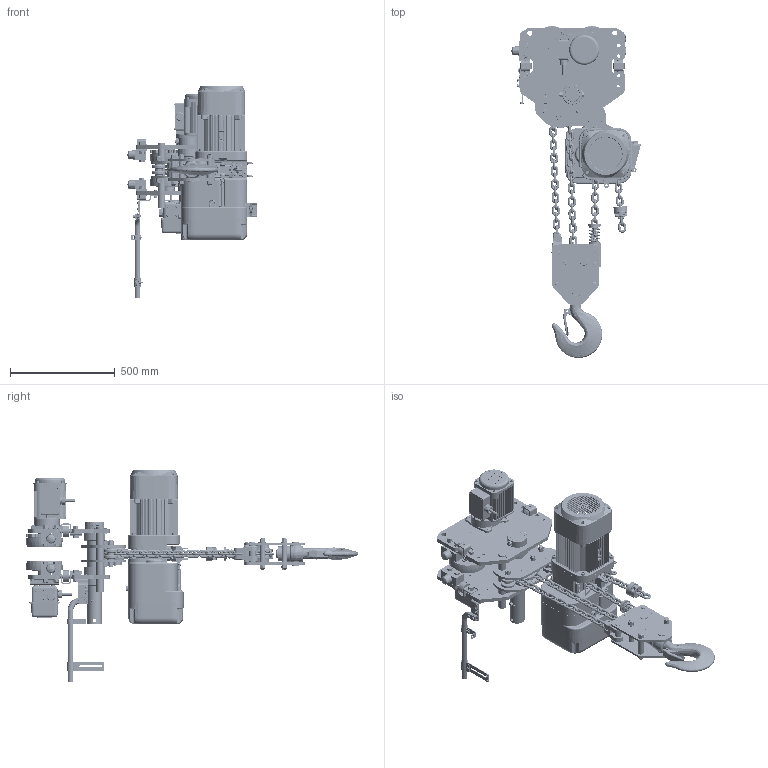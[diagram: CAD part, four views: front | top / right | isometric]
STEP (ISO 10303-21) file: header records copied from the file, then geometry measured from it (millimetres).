
FILE_DESCRIPTION (( 'STEP AP214' ), '1' );
FILE_NAME ('NER2M080S-L.STEP', '2026-08-06T14:20:09', ( '' ), ( '' ), 'SwSTEP 2.0', 'SolidWorks 2026', '' );
FILE_SCHEMA (( 'AUTOMOTIVE_DESIGN' ));
Length unit declared in the file: millimetre
Products named in the file (166): ECP5924AB1; ER2HS50521; 9009436_9009436; E6F630010S; MR1IS5202; 9047145_9047145; E6SE075S90671; MR1IS9202; 90912134_90912134; pan cross head_am_PreviewCfg; MR1IS9634; M6SE100S9113; MR1GS9325; ER2FS6122; MS554010; 9009435_9009435; ER2FS6121; 6309Z Bearing; E6SE075S50541; ER2FS9101; MR1FS9631; MR1DS1493; ER2BHM75S9A6; LCER2025NP; MR1DS1491; MS1102075; ER2HS50031; ER2HS90051; MR1DS9491; 9091255_9091255; external tooth lock washer_am_PreviewCfg; hex nut style 1_am_9093424; ER1FH9054; E6SE075S90081; ES558003; E6S010075_E6S010075; MR1DS9493; ER2EI4511; MR1DS9411; E6S023100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
Assembly tree (427 placements, depth 6):
  NER2M080S-L
    MR2080L_6" FLANGE
      MR1IS5201
        MR1IS9201
        MR1IS9203  x2
        M6SE100S9113
      MR1IS5202
        MR1IS9202
        MR1IS9203  x2
        M6SE100S9114
      MR1GS1211_Reversed  x2
        MR1GS1211 BODY
        MR1GS1211 ATTACHMENT
      MR1GS1211  x2
        MR1GS1211 BODY
        MR1GS1211 ATTACHMENT
      spring lock washer_2_jis_9012715  x6
      hex cap screw_am_90933116  x2
      hex nut style 1_am_9093439  x6
      MS104075  x4
      MS1101075  x2
        M6SE100S9101
        6309Z Bearing
        J1SR000-00100_9047145
      MS1102075  x2
        M6SE100S9102
        6309Z Bearing
        J1SR000-00100_9047145
      9047145_9047145  x4
      70165XX_7016501
        MR1DS9401_1 - 8 TON & 10 L TON
        MR1DS9411
        MR1DS9421
        external tooth lock washer_am_PreviewCfg  x4
        MS554010  x8
        MR2HS1768
          60704
            ECP5924AA1
            ECP5924AD1
            ECP5924AC1
            KITO-WASHER
            ECP5924AB1
          16-6P (MR2)
          ECP2108AC
          ECP6916AA
        MR2HS1759
          60704
            ECP5924AA1
            ECP5924AD1
            ECP5924AC1
            KITO-WASHER
            ECP5924AB1
          ECP6916AA
          14-4 (MR2)
          ECP2304AF
        60704
          ECP5924AA1
          ECP5924AD1
          ECP5924AC1
          KITO-WASHER
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Bounding box: 617 x 1586.44 x 1009.82 mm (x, y, z)
Volume: 55153488.7 mm3; surface area: 7043971.3 mm2
Topology: 460 solids, 480 shells, 16591 faces, 43005 edges, 27506 vertices
Faces by surface type: plane 6671, cylinder 5420, torus 1499, bspline 1408, cone 1284, sphere 309
Entity records: 428180 total; most frequent: CARTESIAN_POINT 173316, ORIENTED_EDGE 52088, DIRECTION 50331, EDGE_CURVE 26046, AXIS2_PLACEMENT_3D 19034, VERTEX_POINT 16884, LINE 12263, VECTOR 12263
